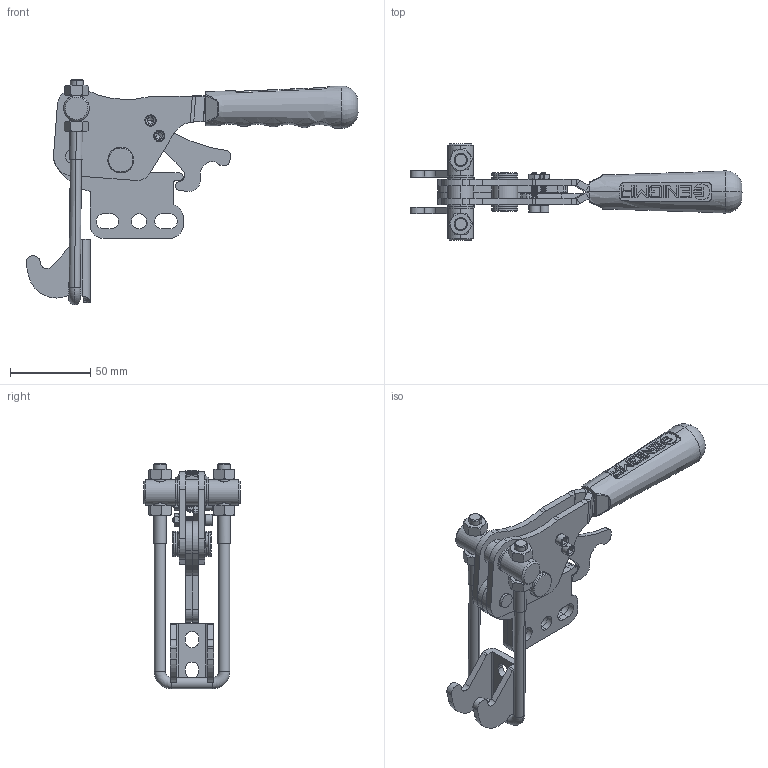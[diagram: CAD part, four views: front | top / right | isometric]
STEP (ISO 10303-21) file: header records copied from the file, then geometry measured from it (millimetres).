
FILE_DESCRIPTION (( 'STEP AP203' ), '1' );
FILE_NAME ('13208_D_K.STEP', '2022-11-30T08:58:56', ( '' ), ( '' ), 'SwSTEP 2.0', 'SolidWorks 2023', '' );
FILE_SCHEMA (( 'CONFIG_CONTROL_DESIGN' ));
Length unit declared in the file: millimetre
Products named in the file (15): 13108_OTOMAT_2_Varsay_X2_0131_X0_lan; _X2_00d8_X0_6x18_P(PER_X2_00c70130_X0_N)_Varsay_X2_0131_X0_lan; M8_M10_KK; 2022_13108_13110_Y_G_X2_00d6_X0_VDE_1; M8x50_U_KANCA_Varsayılan; 13208_D_K; 13108_H.KOLU_2022_Varsay_X2_0131_X0_lan; 13108_OTOMAT_Varsay_X2_0131_X0_lan; M4_S; M8 Somun; Mirror2022_13108_13110_Y_G_X2_00d6_X0_VDE_1; 13108_K_X2_0130_X0_L_X2_0130_X0_T_MEKAN_X2_0130_X0_ZMASI; S_M4x20 Imbus Civata; C95_Yeni_Tutamak_Varsay_X2_0131_X0_lan; Mirror13108_H.KOLU_2022_Varsay_X2_0131_X0_lan
Assembly tree (19 placements, depth 2):
  13208_D_K
    2022_13108_13110_Y_G_X2_00d6_X0_VDE_1
    13108_K_X2_0130_X0_L_X2_0130_X0_T_MEKAN_X2_0130_X0_ZMASI
    13108_OTOMAT_Varsay_X2_0131_X0_lan
    13108_OTOMAT_2_Varsay_X2_0131_X0_lan
    13108_H.KOLU_2022_Varsay_X2_0131_X0_lan
    Mirror13108_H.KOLU_2022_Varsay_X2_0131_X0_lan
    Mirror2022_13108_13110_Y_G_X2_00d6_X0_VDE_1
    M8_M10_KK
    C95_Yeni_Tutamak_Varsay_X2_0131_X0_lan
    S_M4x20 Imbus Civata  x2
    _X2_00d8_X0_6x18_P(PER_X2_00c70130_X0_N)_Varsay_X2_0131_X0_lan
    M8 Somun  x4
    M4_S  x2
    M8x50_U_KANCA_Varsayılan
Bounding box: 206.93 x 60 x 140.53 mm (x, y, z)
Volume: 133337.2 mm3; surface area: 73980.8 mm2
Topology: 17 solids, 79 shells, 879 faces, 2357 edges, 1565 vertices
Faces by surface type: cylinder 365, plane 334, cone 88, bspline 50, torus 40, sphere 2
Entity records: 64125 total; most frequent: CARTESIAN_POINT 46168, ORIENTED_EDGE 3419, DIRECTION 3206, EDGE_CURVE 1775, VERTEX_POINT 1171, AXIS2_PLACEMENT_3D 1153, VECTOR 900, LINE 900
